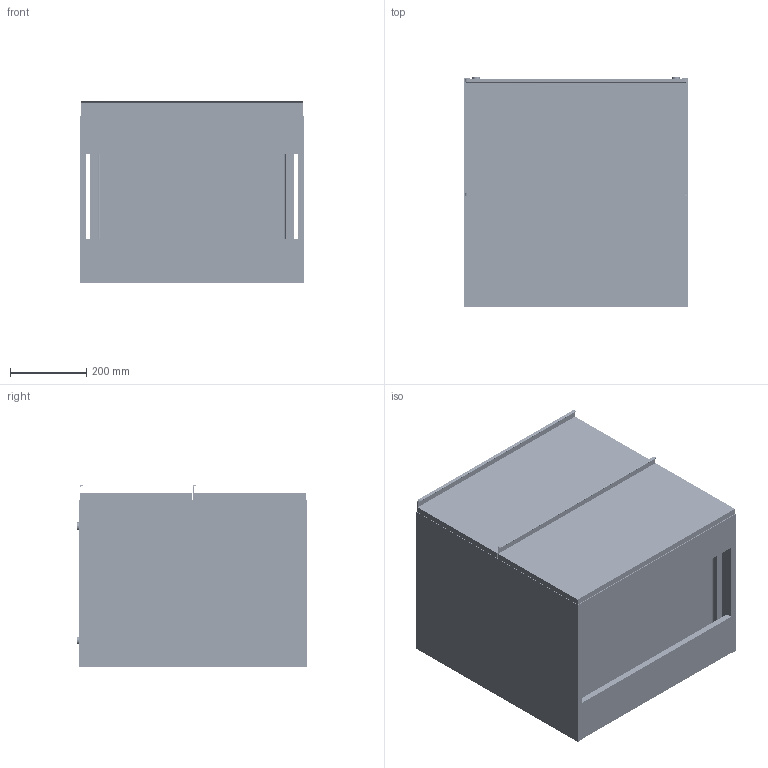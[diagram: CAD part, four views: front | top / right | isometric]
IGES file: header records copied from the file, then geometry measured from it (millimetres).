
Start section: SolidWorks IGES file using analytic representation for surfaces
Global section: file name: \\PDM-SQL\Technolodzy\WYROBY\_Nowa dokumentacja\SZAFKA VIGOUR 60 2S - 167925, 167926, 167927\SZAFKA 60 2S.IGS; native system: SolidWorks 2012; preprocessor: SolidWorks 2012; author: rkopecki; date: 200625.124618; units: millimetre
Bounding box: 586 x 604.5 x 478.55 mm (x, y, z)
Surface area: 4683769.6 mm2 (no closed solid volume)
Topology: 0 solids, 2 shells, 1774 faces, 22571 edges, 22409 vertices
Faces by surface type: bspline 964, revolution 810
